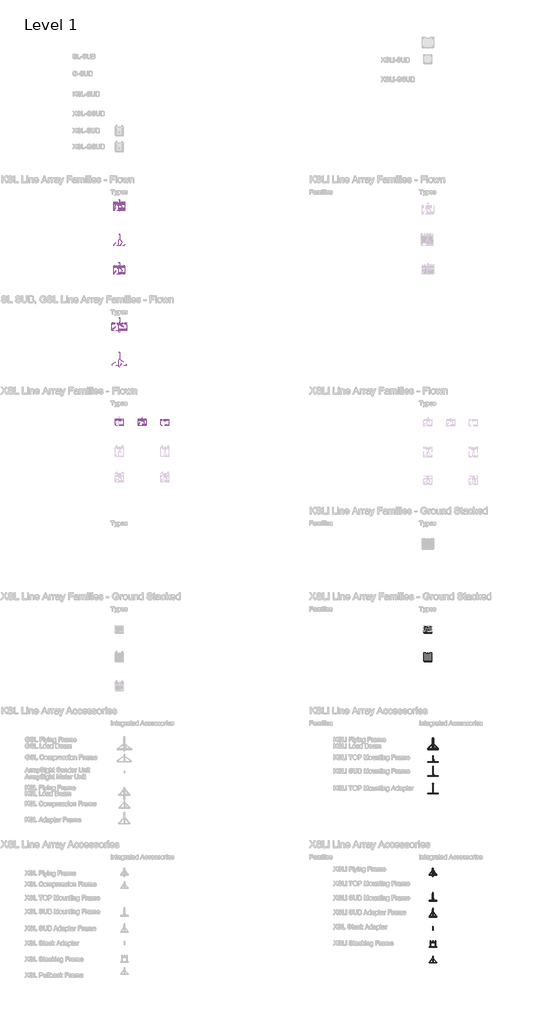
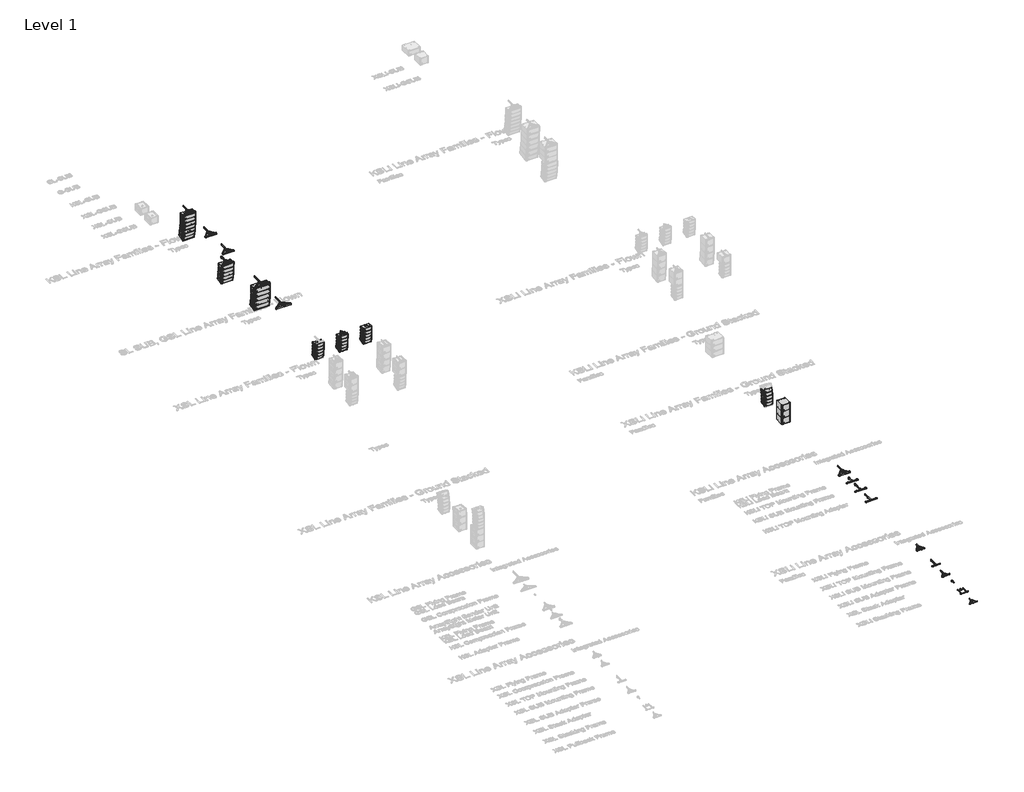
# One storey, part 2 of 52: 75 proxies.
"""IFC4 building model written with IfcOpenShell, lengths in millimetres."""

from ifc_helpers import new_model, si_unit, origin, place, context, project, spatial, transform, mapped, element, save
from components import xsl_adapter_frame_a1c6265e, xsl_adapter_frame_4c239690, communication_devices_4245e99e, communication_devices_117acdfe, communication_devices_14464fff, xsl_stacking_frame_c5b48331, xsl_stacking_frame_b9873154, communication_devices_f9809a49, communication_devices_4d89ff1e, communication_devices_4e83a63b, xsl_sub_mounting_frame_72f05cd3, communication_devices_f2b9ca2b, xsl_compression_frame_79202efc, communication_devices_fb2c1ed3, communication_devices_670856ec, ksl_load_beam_aa081bf2, communication_devices_52280cd8, communication_devices_b4faaad9, communication_devices_27bca6b1, communication_devices_4359931a, ksl_adapter_frame_febc720b, gsl_compression_frame_d4c21625, gsl_load_beam_2b40e9ae, gsl12_12c20019, gsl12_814769ea, gsl12_07355197, ksl_compression_frame_dbb09a64, ksl12_ca8f280e, ksl12_920ca955, ksl12_949d1a2c, xsl_load_beam_a079c9b4, xsl_stack_adapter_3c41b4e6, xsl12_895e49e3, xsl12_576bfbdb, xsl12_ee73a5ce

model = new_model("IFC4")

# Units and contexts
model_context = context("Model", 3, world=origin())
ifc_project = project(units=[si_unit("LENGTHUNIT", "METRE", prefix="MILLI")], contexts=[model_context])

# Site, building, storey
site = spatial("IfcSite", under=ifc_project)
building = spatial("IfcBuilding", under=site)
storey = spatial("IfcBuildingStorey", under=building, Name="Level 1", Elevation=0.0)

# Proxies
placement = place(None, origin())
xsl_adapter_frame_shape = xsl_adapter_frame_a1c6265e(model_context)
xsl_adapter_frame_2_shape = xsl_adapter_frame_4c239690(model_context)
element("IfcBuildingElementProxy", 1, Name="d&b SL-Series XSLi SUB Adapter Frame : XSLi SUB Adapter Frame", ObjectType="d&b SL-Series XSLi SUB Adapter Frame : XSLi SUB Adapter Frame", at=placement, inside=storey, context=model_context, shape_type="MappedRepresentation", body=[
    mapped(xsl_adapter_frame_shape, transform((16703.6207486, -66372.3737699, 0.0), x_axis=(1.0, 0.0, 0.0), y_axis=(0.0, 1.0, 0.0), z_axis=(0.0, 0.0, 1.0))),
    mapped(xsl_adapter_frame_2_shape, transform((16703.6207486, -66372.3737699, 0.0), x_axis=(1.0, 0.0, 0.0), y_axis=(0.0, 1.0, 0.0), z_axis=(0.0, 0.0, 1.0))),
])
communication_devices_shape = communication_devices_4245e99e(model_context)
communication_devices_2_shape = communication_devices_117acdfe(model_context)
communication_devices_3_shape = communication_devices_14464fff(model_context)
element("IfcBuildingElementProxy", 2, Name="d&b SL-Series XSLi : XSLi8", ObjectType="d&b SL-Series XSLi : XSLi8", at=placement, inside=storey, context=model_context, shape_type="MappedRepresentation", body=[
    mapped(communication_devices_shape, transform((15758.3565696, -41137.0450121, 222.9081075), x_axis=(1.0, 0.0, 0.0), y_axis=(0.0, 0.9961946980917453, 0.08715574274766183), z_axis=(0.0, -0.08715574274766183, 0.9961946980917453))),
    mapped(communication_devices_2_shape, transform((15758.3565696, -41137.0450121, 222.9081075), x_axis=(1.0, 0.0, 0.0), y_axis=(0.0, 0.9961946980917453, 0.08715574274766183), z_axis=(0.0, -0.08715574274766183, 0.9961946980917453))),
    mapped(communication_devices_3_shape, transform((15758.3565696, -41137.0450121, 222.9081075), x_axis=(1.0, 0.0, 0.0), y_axis=(0.0, 0.9961946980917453, 0.08715574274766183), z_axis=(0.0, -0.08715574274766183, 0.9961946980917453))),
])
element("IfcBuildingElementProxy", 3, Name="d&b SL-Series XSLi : XSLi8", ObjectType="d&b SL-Series XSLi : XSLi8", at=placement, inside=storey, context=model_context, shape_type="MappedRepresentation", body=[
    mapped(communication_devices_shape, transform((15758.3565696, -41150.1658055, 477.483629), x_axis=(1.0, 0.0, 0.0), y_axis=(0.0, 1.0, 0.0), z_axis=(0.0, 0.0, 1.0))),
    mapped(communication_devices_2_shape, transform((15758.3565696, -41150.1658055, 477.483629), x_axis=(1.0, 0.0, 0.0), y_axis=(0.0, 1.0, 0.0), z_axis=(0.0, 0.0, 1.0))),
    mapped(communication_devices_3_shape, transform((15758.3565696, -41150.1658055, 477.483629), x_axis=(1.0, 0.0, 0.0), y_axis=(0.0, 1.0, 0.0), z_axis=(0.0, 0.0, 1.0))),
])
element("IfcBuildingElementProxy", 4, Name="d&b SL-Series XSLi : XSLi8", ObjectType="d&b SL-Series XSLi : XSLi8", at=placement, inside=storey, context=model_context, shape_type="MappedRepresentation", body=[
    mapped(communication_devices_shape, transform((15758.3565696, -41141.0489517, 732.2339663), x_axis=(1.0, 0.0, 0.0), y_axis=(0.0, 0.996194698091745, -0.08715574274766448), z_axis=(0.0, 0.08715574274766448, 0.996194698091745))),
    mapped(communication_devices_2_shape, transform((15758.3565696, -41141.0489517, 732.2339663), x_axis=(1.0, 0.0, 0.0), y_axis=(0.0, 0.996194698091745, -0.08715574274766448), z_axis=(0.0, 0.08715574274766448, 0.996194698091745))),
    mapped(communication_devices_3_shape, transform((15758.3565696, -41141.0489517, 732.2339663), x_axis=(1.0, 0.0, 0.0), y_axis=(0.0, 0.996194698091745, -0.08715574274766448), z_axis=(0.0, 0.08715574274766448, 0.996194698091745))),
])
element("IfcBuildingElementProxy", 5, Name="d&b SL-Series XSLi : XSLi8", ObjectType="d&b SL-Series XSLi : XSLi8", at=placement, inside=storey, context=model_context, shape_type="MappedRepresentation", body=[
    mapped(communication_devices_shape, transform((15758.3565696, -41056.5485553, 1234.5172976), x_axis=(1.0, 0.0, 0.0), y_axis=(0.0, 0.9659258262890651, -0.2588190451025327), z_axis=(0.0, 0.2588190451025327, 0.9659258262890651))),
    mapped(communication_devices_2_shape, transform((15758.3565696, -41056.5485553, 1234.5172976), x_axis=(1.0, 0.0, 0.0), y_axis=(0.0, 0.9659258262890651, -0.2588190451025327), z_axis=(0.0, 0.2588190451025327, 0.9659258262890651))),
    mapped(communication_devices_3_shape, transform((15758.3565696, -41056.5485553, 1234.5172976), x_axis=(1.0, 0.0, 0.0), y_axis=(0.0, 0.9659258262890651, -0.2588190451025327), z_axis=(0.0, 0.2588190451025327, 0.9659258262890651))),
])
element("IfcBuildingElementProxy", 6, Name="d&b SL-Series XSLi : XSLi8", ObjectType="d&b SL-Series XSLi : XSLi8", at=placement, inside=storey, context=model_context, shape_type="MappedRepresentation", body=[
    mapped(communication_devices_shape, transform((15758.3565696, -41109.7638354, 985.2203154), x_axis=(1.0, 0.0, 0.0), y_axis=(0.0, 0.9848077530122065, -0.17364817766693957), z_axis=(0.0, 0.17364817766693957, 0.9848077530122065))),
    mapped(communication_devices_2_shape, transform((15758.3565696, -41109.7638354, 985.2203154), x_axis=(1.0, 0.0, 0.0), y_axis=(0.0, 0.9848077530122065, -0.17364817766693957), z_axis=(0.0, 0.17364817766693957, 0.9848077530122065))),
    mapped(communication_devices_3_shape, transform((15758.3565696, -41109.7638354, 985.2203154), x_axis=(1.0, 0.0, 0.0), y_axis=(0.0, 0.9848077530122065, -0.17364817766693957), z_axis=(0.0, 0.17364817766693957, 0.9848077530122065))),
])
xsl_stacking_frame_shape = xsl_stacking_frame_c5b48331(model_context)
xsl_stacking_frame_2_shape = xsl_stacking_frame_b9873154(model_context)
element("IfcBuildingElementProxy", 7, Name="d&b SL-Series XSLi Stacking Frame : XSLi Stacking Frame", ObjectType="d&b SL-Series XSLi Stacking Frame : XSLi Stacking Frame", at=placement, inside=storey, context=model_context, shape_type="MappedRepresentation", body=[
    mapped(xsl_stacking_frame_shape, transform((16703.6207486, -68982.5436027, 0.0), x_axis=(1.0, 0.0, 0.0), y_axis=(0.0, 1.0, 0.0), z_axis=(0.0, 0.0, 1.0))),
    mapped(xsl_stacking_frame_2_shape, transform((16703.6207486, -68982.5436027, 0.0), x_axis=(1.0, 0.0, 0.0), y_axis=(0.0, 1.0, 0.0), z_axis=(0.0, 0.0, 1.0))),
])
communication_devices_4_shape = communication_devices_f9809a49(model_context)
element("IfcBuildingElementProxy", 8, Name="d&b SL-Series XSLi-SUB : XSLi-SUB", ObjectType="d&b SL-Series XSLi-SUB : XSLi-SUB", at=placement, inside=storey, context=model_context, shape_type="MappedRepresentation", body=[
    mapped(communication_devices_4_shape, transform((13758.3565696, -43934.0373035, 0.0), x_axis=(1.0000000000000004, 0.0, 0.0), y_axis=(0.0, 1.0000000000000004, 0.0), z_axis=(0.0, 0.0, 1.0))),
])
element("IfcBuildingElementProxy", 9, Name="d&b SL-Series XSLi-SUB : XSLi-SUB", ObjectType="d&b SL-Series XSLi-SUB : XSLi-SUB", at=placement, inside=storey, context=model_context, shape_type="MappedRepresentation", body=[
    mapped(communication_devices_4_shape, transform((13758.3565696, -43934.0373035, 564.2869837), x_axis=(1.0000000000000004, 0.0, 0.0), y_axis=(0.0, 1.0000000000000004, 0.0), z_axis=(0.0, 0.0, 1.0))),
])
element("IfcBuildingElementProxy", 10, Name="d&b SL-Series XSLi-SUB : XSLi-SUB", ObjectType="d&b SL-Series XSLi-SUB : XSLi-SUB", at=placement, inside=storey, context=model_context, shape_type="MappedRepresentation", body=[
    mapped(communication_devices_4_shape, transform((13758.3565696, -43934.0373035, 1128.5739675), x_axis=(1.0000000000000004, 0.0, 0.0), y_axis=(0.0, 1.0000000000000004, 0.0), z_axis=(0.0, 0.0, 1.0))),
])
communication_devices_5_shape = communication_devices_4d89ff1e(model_context)
element("IfcBuildingElementProxy", 11, Name="d&b SL-Series XSLi Flying Frame : XSLi Flying Frame", ObjectType="d&b SL-Series XSLi Flying Frame : XSLi Flying Frame", at=placement, inside=storey, context=model_context, shape_type="MappedRepresentation", body=[
    mapped(communication_devices_5_shape, transform((16703.6207486, -62666.3154614, 0.0), x_axis=(1.0, 0.0, 0.0), y_axis=(0.0, 1.0, 0.0), z_axis=(0.0, 0.0, 1.0))),
])
communication_devices_6_shape = communication_devices_4e83a63b(model_context)
element("IfcBuildingElementProxy", 12, Name="d&b SL-Series GSL Flying Frame : GSL Flying Frame", ObjectType="d&b SL-Series GSL Flying Frame : GSL Flying Frame", at=placement, inside=storey, context=model_context, shape_type="MappedRepresentation", body=[
    mapped(communication_devices_6_shape, transform((-10741.6434304, -18074.7426738, 4000.0), x_axis=(1.0000000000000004, 0.0, 0.0), y_axis=(0.0, 1.0000000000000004, 0.0), z_axis=(0.0, 0.0, 1.0))),
])
xsl_sub_mounting_frame_shape = xsl_sub_mounting_frame_72f05cd3(model_context)
communication_devices_7_shape = communication_devices_f2b9ca2b(model_context)
element("IfcBuildingElementProxy", 13, Name="d&b SL-Series XSLi SUB Mounting Frame : XSLi SUB Mounting Frame", ObjectType="d&b SL-Series XSLi SUB Mounting Frame : XSLi SUB Mounting Frame", at=placement, inside=storey, context=model_context, shape_type="MappedRepresentation", body=[
    mapped(xsl_sub_mounting_frame_shape, transform((16703.6207486, -64932.3737699, 0.0), x_axis=(1.0, 0.0, 0.0), y_axis=(0.0, 1.0, 0.0), z_axis=(0.0, 0.0, 1.0))),
    mapped(communication_devices_7_shape, transform((16703.6207486, -64932.3737699, 0.0), x_axis=(1.0, 0.0, 0.0), y_axis=(0.0, 1.0, 0.0), z_axis=(0.0, 0.0, 1.0))),
])
xsl_compression_frame_shape = xsl_compression_frame_79202efc(model_context)
element("IfcBuildingElementProxy", 14, Name="d&b SL-Series XSL Pullback Frame : XSL Pullback Frame", ObjectType="d&b SL-Series XSL Pullback Frame : XSL Pullback Frame", at=placement, inside=storey, context=model_context, shape_type="MappedRepresentation", body=[
    mapped(xsl_compression_frame_shape, transform((-8741.6434304, -23258.1779583, 2573.6576179), x_axis=(1.0000000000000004, 0.0, 0.0), y_axis=(0.0, 0.981627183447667, 0.19080899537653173), z_axis=(0.0, -0.19080899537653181, 0.9816271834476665))),
])
element("IfcBuildingElementProxy", 15, Name="d&b SL-Series XSLi Pullback Frame : XSLi Pullback Frame", ObjectType="d&b SL-Series XSLi Pullback Frame : XSLi Pullback Frame", at=placement, inside=storey, context=model_context, shape_type="MappedRepresentation", body=[
    mapped(xsl_compression_frame_shape, transform((16703.6207486, -70382.5436027, 0.0), x_axis=(1.0, 0.0, 0.0), y_axis=(0.0, 1.0, 0.0), z_axis=(0.0, 0.0, 1.0))),
])
element("IfcBuildingElementProxy", 16, Name="d&b SL-Series XSL Flying Frame : XSL Flying Frame", ObjectType="d&b SL-Series XSL Flying Frame : XSL Flying Frame", at=placement, inside=storey, context=model_context, shape_type="MappedRepresentation", body=[
    mapped(communication_devices_5_shape, transform((-8741.6434304, -23330.9856601, 4011.0), x_axis=(1.0000000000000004, 0.0, 0.0), y_axis=(0.0, 1.0000000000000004, 0.0), z_axis=(0.0, 0.0, 1.0))),
])
communication_devices_8_shape = communication_devices_fb2c1ed3(model_context)
element("IfcBuildingElementProxy", 17, Name="d&b SL-Series ArraySight Sender Unit : ArraySight Sender Unit", ObjectType="d&b SL-Series ArraySight Sender Unit : ArraySight Sender Unit", at=placement, inside=storey, context=model_context, shape_type="MappedRepresentation", body=[
    mapped(communication_devices_8_shape, transform((-10591.6434304, -17996.7426738, 4004.0), x_axis=(1.0000000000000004, 0.0, 0.0), y_axis=(0.0, 1.0000000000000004, 0.0), z_axis=(0.0, 0.0, 1.0))),
])
element("IfcBuildingElementProxy", 18, Name="d&b SL-Series ArraySight Sender Unit : ArraySight Sender Unit", ObjectType="d&b SL-Series ArraySight Sender Unit : ArraySight Sender Unit", at=placement, inside=storey, context=model_context, shape_type="MappedRepresentation", body=[
    mapped(communication_devices_8_shape, transform((-10591.6434304, -14966.9856601, 4004.0), x_axis=(1.0000000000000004, 0.0, 0.0), y_axis=(0.0, 1.0000000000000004, 0.0), z_axis=(0.0, 0.0, 1.0))),
])
element("IfcBuildingElementProxy", 19, Name="d&b SL-Series ArraySight Sender Unit : ArraySight Sender Unit", ObjectType="d&b SL-Series ArraySight Sender Unit : ArraySight Sender Unit", at=placement, inside=storey, context=model_context, shape_type="MappedRepresentation", body=[
    mapped(communication_devices_8_shape, transform((-10591.6434304, -4466.9856601, 4004.0), x_axis=(1.0000000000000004, 0.0, 0.0), y_axis=(0.0, 1.0000000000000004, 0.0), z_axis=(0.0, 0.0, 1.0))),
])
element("IfcBuildingElementProxy", 20, Name="d&b SL-Series ArraySight Sender Unit : ArraySight Sender Unit", ObjectType="d&b SL-Series ArraySight Sender Unit : ArraySight Sender Unit", at=placement, inside=storey, context=model_context, shape_type="MappedRepresentation", body=[
    mapped(communication_devices_8_shape, transform((-10591.6434304, -9997.6176738, 3924.0), x_axis=(1.0000000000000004, 0.0, 0.0), y_axis=(0.0, 1.0000000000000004, 0.0), z_axis=(0.0, 0.0, 1.0))),
])
element("IfcBuildingElementProxy", 21, Name="d&b SL-Series ArraySight Sender Unit : ArraySight Sender Unit", ObjectType="d&b SL-Series ArraySight Sender Unit : ArraySight Sender Unit", at=placement, inside=storey, context=model_context, shape_type="MappedRepresentation", body=[
    mapped(communication_devices_8_shape, transform((-10591.6434304, -7497.6176738, 3924.0), x_axis=(1.0000000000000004, 0.0, 0.0), y_axis=(0.0, 1.0000000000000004, 0.0), z_axis=(0.0, 0.0, 1.0))),
])
element("IfcBuildingElementProxy", 22, Name="d&b SL-Series ArraySight Sender Unit : ArraySight Sender Unit", ObjectType="d&b SL-Series ArraySight Sender Unit : ArraySight Sender Unit", at=placement, inside=storey, context=model_context, shape_type="MappedRepresentation", body=[
    mapped(communication_devices_8_shape, transform((-6667.2568891, -23330.9856601, 4004.0), x_axis=(1.0000000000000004, 0.0, 0.0), y_axis=(0.0, 1.0000000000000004, 0.0), z_axis=(0.0, 0.0, 1.0))),
])
element("IfcBuildingElementProxy", 23, Name="d&b SL-Series ArraySight Sender Unit : ArraySight Sender Unit", ObjectType="d&b SL-Series ArraySight Sender Unit : ArraySight Sender Unit", at=placement, inside=storey, context=model_context, shape_type="MappedRepresentation", body=[
    mapped(communication_devices_8_shape, transform((-8667.2568891, -23330.9856601, 4004.0), x_axis=(1.0000000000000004, 0.0, 0.0), y_axis=(0.0, 1.0000000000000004, 0.0), z_axis=(0.0, 0.0, 1.0))),
])
element("IfcBuildingElementProxy", 24, Name="d&b SL-Series GSL Flying Frame : GSL Flying Frame", ObjectType="d&b SL-Series GSL Flying Frame : GSL Flying Frame", at=placement, inside=storey, context=model_context, shape_type="MappedRepresentation", body=[
    mapped(communication_devices_6_shape, transform((-10741.6434304, -15044.9856601, 4000.0), x_axis=(1.0000000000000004, 0.0, 0.0), y_axis=(0.0, 1.0000000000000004, 0.0), z_axis=(0.0, 0.0, 1.0))),
])
communication_devices_9_shape = communication_devices_670856ec(model_context)
element("IfcBuildingElementProxy", 25, Name="d&b SL-Series KSL Flying Frame : KSL Flying Frame", ObjectType="d&b SL-Series KSL Flying Frame : KSL Flying Frame", at=placement, inside=storey, context=model_context, shape_type="MappedRepresentation", body=[
    mapped(communication_devices_9_shape, transform((-10741.6434304, -4544.9856601, 4000.0), x_axis=(1.0000000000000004, 0.0, 0.0), y_axis=(0.0, 1.0000000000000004, 0.0), z_axis=(0.0, 0.0, 1.0))),
])
element("IfcBuildingElementProxy", 26, Name="d&b SL-Series KSL Flying Frame : KSL Flying Frame", ObjectType="d&b SL-Series KSL Flying Frame : KSL Flying Frame", at=placement, inside=storey, context=model_context, shape_type="MappedRepresentation", body=[
    mapped(communication_devices_9_shape, transform((-10741.6434304, -10074.7426738, 3920.0), x_axis=(1.0000000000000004, 0.0, 0.0), y_axis=(0.0, 1.0000000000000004, 0.0), z_axis=(0.0, 0.0, 1.0))),
])
element("IfcBuildingElementProxy", 27, Name="d&b SL-Series KSL Flying Frame : KSL Flying Frame", ObjectType="d&b SL-Series KSL Flying Frame : KSL Flying Frame", at=placement, inside=storey, context=model_context, shape_type="MappedRepresentation", body=[
    mapped(communication_devices_9_shape, transform((-10741.6434304, -7574.7426738, 3920.0), x_axis=(1.0000000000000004, 0.0, 0.0), y_axis=(0.0, 1.0000000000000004, 0.0), z_axis=(0.0, 0.0, 1.0))),
])
ksl_load_beam_shape = ksl_load_beam_aa081bf2(model_context)
element("IfcBuildingElementProxy", 28, Name="d&b SL-Series KSLi Load Beam : KSLi Load Beam", ObjectType="d&b SL-Series KSLi Load Beam : KSLi Load Beam", at=placement, inside=storey, context=model_context, shape_type="MappedRepresentation", body=[
    mapped(ksl_load_beam_shape, transform((16713.6207486, -51683.8173767, 0.0), x_axis=(1.0, 0.0, 0.0), y_axis=(0.0, 1.0, 0.0), z_axis=(0.0, 0.0, 1.0))),
])
communication_devices_10_shape = communication_devices_52280cd8(model_context)
element("IfcBuildingElementProxy", 29, Name="d&b SL-Series KSLi TOP Mounting Frame : KSLi TOP Mounting Frame", ObjectType="d&b SL-Series KSLi TOP Mounting Frame : KSLi TOP Mounting Frame", at=placement, inside=storey, context=model_context, shape_type="MappedRepresentation", body=[
    mapped(communication_devices_10_shape, transform((16713.6207486, -52794.9588715, 0.0), x_axis=(1.0, 0.0, 0.0), y_axis=(0.0, 1.0, 0.0), z_axis=(0.0, 0.0, 1.0))),
])
communication_devices_11_shape = communication_devices_b4faaad9(model_context)
element("IfcBuildingElementProxy", 30, Name="d&b SL-Series KSLi Flying Frame : KSLi Flying Frame", ObjectType="d&b SL-Series KSLi Flying Frame : KSLi Flying Frame", at=placement, inside=storey, context=model_context, shape_type="MappedRepresentation", body=[
    mapped(communication_devices_11_shape, transform((16713.6207486, -51683.8173767, 0.0), x_axis=(1.0, 0.0, 0.0), y_axis=(0.0, 1.0, 0.0), z_axis=(0.0, 0.0, 1.0))),
])
communication_devices_12_shape = communication_devices_27bca6b1(model_context)
element("IfcBuildingElementProxy", 31, Name="d&b SL-Series KSLi SUB Mounting Frame : KSLi SUB Mounting Frame", ObjectType="d&b SL-Series KSLi SUB Mounting Frame : KSLi SUB Mounting Frame", at=placement, inside=storey, context=model_context, shape_type="MappedRepresentation", body=[
    mapped(communication_devices_12_shape, transform((16713.6207486, -54034.9588715, 0.0), x_axis=(1.0, 0.0, 0.0), y_axis=(0.0, 1.0, 0.0), z_axis=(0.0, 0.0, 1.0))),
])
communication_devices_13_shape = communication_devices_4359931a(model_context)
element("IfcBuildingElementProxy", 32, Name="d&b SL-Series KSLi SUB Mounting Adapter : KSLi SUB Mounting Adapter", ObjectType="d&b SL-Series KSLi SUB Mounting Adapter : KSLi SUB Mounting Adapter", at=placement, inside=storey, context=model_context, shape_type="MappedRepresentation", body=[
    mapped(communication_devices_13_shape, transform((16713.6207486, -55534.9588715, 0.0), x_axis=(1.0, 0.0, 0.0), y_axis=(0.0, 1.0, 0.0), z_axis=(0.0, 0.0, 1.0))),
])
ksl_adapter_frame_shape = ksl_adapter_frame_febc720b(model_context)
element("IfcBuildingElementProxy", 33, Name="d&b SL-Series KSL Adapter Frame : d&b SL-Series KSL Adapter Frame", ObjectType="d&b SL-Series KSL Adapter Frame : d&b SL-Series KSL Adapter Frame", at=placement, inside=storey, context=model_context, shape_type="MappedRepresentation", body=[
    mapped(ksl_adapter_frame_shape, transform((-11741.6434304, -10049.2104885, 2863.1273811), x_axis=(1.0000000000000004, 0.0, 0.0), y_axis=(0.0, 0.9993908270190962, 0.03489949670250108), z_axis=(0.0, -0.034899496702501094, 0.9993908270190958))),
])
gsl_compression_frame_shape = gsl_compression_frame_d4c21625(model_context)
element("IfcBuildingElementProxy", 34, Name="d&b SL-Series GSL Compression Frame : GSL Compression Frame", ObjectType="d&b SL-Series GSL Compression Frame : GSL Compression Frame", at=placement, inside=storey, context=model_context, shape_type="MappedRepresentation", body=[
    mapped(gsl_compression_frame_shape, transform((-10741.6434304, -14935.594976, 2028.6857312), x_axis=(1.0000000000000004, 0.0, 0.0), y_axis=(0.0, 0.9902680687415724, 0.13917310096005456), z_axis=(0.0, -0.1391731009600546, 0.9902680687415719))),
])
gsl_load_beam_shape = gsl_load_beam_2b40e9ae(model_context)
element("IfcBuildingElementProxy", 35, Name="d&b SL-Series GSL Load Beam : GSL Load Beam", ObjectType="d&b SL-Series GSL Load Beam : GSL Load Beam", at=placement, inside=storey, context=model_context, shape_type="MappedRepresentation", body=[
    mapped(gsl_load_beam_shape, transform((-10741.6434304, -18074.7426738, 4000.0), x_axis=(1.0000000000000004, 0.0, 0.0), y_axis=(0.0, 1.0000000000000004, 0.0), z_axis=(0.0, 0.0, 1.0))),
])
element("IfcBuildingElementProxy", 36, Name="d&b SL-Series GSL Load Beam : GSL Load Beam", ObjectType="d&b SL-Series GSL Load Beam : GSL Load Beam", at=placement, inside=storey, context=model_context, shape_type="MappedRepresentation", body=[
    mapped(gsl_load_beam_shape, transform((-10741.6434304, -15044.9856601, 4000.0), x_axis=(1.0000000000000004, 0.0, 0.0), y_axis=(0.0, 1.0000000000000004, 0.0), z_axis=(0.0, 0.0, 1.0))),
])
gsl12_shape = gsl12_12c20019(model_context)
gsl12_2_shape = gsl12_814769ea(model_context)
gsl12_3_shape = gsl12_07355197(model_context)
element("IfcBuildingElementProxy", 37, Name="d&b SL-Series GSL : GSL8", ObjectType="d&b SL-Series GSL : GSL8", at=placement, inside=storey, context=model_context, shape_type="MappedRepresentation", body=[
    mapped(gsl12_shape, transform((-11241.6434304, -14686.1112574, 3798.0), x_axis=(1.0000000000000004, 0.0, 0.0), y_axis=(0.0, 1.0000000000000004, 0.0), z_axis=(0.0, 0.0, 1.0))),
    mapped(gsl12_2_shape, transform((-11241.6434304, -14686.1112574, 3798.0), x_axis=(1.0000000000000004, 0.0, 0.0), y_axis=(0.0, 1.0000000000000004, 0.0), z_axis=(0.0, 0.0, 1.0))),
    mapped(gsl12_3_shape, transform((-11241.6434304, -14686.1112574, 3798.0), x_axis=(1.0000000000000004, 0.0, 0.0), y_axis=(0.0, 1.0000000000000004, 0.0), z_axis=(0.0, 0.0, 1.0))),
])
element("IfcBuildingElementProxy", 38, Name="d&b SL-Series GSL : GSL8", ObjectType="d&b SL-Series GSL : GSL8", at=placement, inside=storey, context=model_context, shape_type="MappedRepresentation", body=[
    mapped(gsl12_shape, transform((-11241.6434304, -14678.8877528, 3415.6656969), x_axis=(1.0000000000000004, 0.0, 0.0), y_axis=(0.0, 0.9993908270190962, 0.034899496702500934), z_axis=(0.0, -0.03489949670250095, 0.9993908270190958))),
    mapped(gsl12_2_shape, transform((-11241.6434304, -14678.8877528, 3415.6656969), x_axis=(1.0000000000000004, 0.0, 0.0), y_axis=(0.0, 0.9993908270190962, 0.034899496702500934), z_axis=(0.0, -0.03489949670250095, 0.9993908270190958))),
    mapped(gsl12_3_shape, transform((-11241.6434304, -14678.8877528, 3415.6656969), x_axis=(1.0000000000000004, 0.0, 0.0), y_axis=(0.0, 0.9993908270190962, 0.034899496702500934), z_axis=(0.0, -0.03489949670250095, 0.9993908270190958))),
])
element("IfcBuildingElementProxy", 39, Name="d&b SL-Series GSL : GSL8", ObjectType="d&b SL-Series GSL : GSL8", at=placement, inside=storey, context=model_context, shape_type="MappedRepresentation", body=[
    mapped(gsl12_shape, transform((-11241.6434304, -14658.3253738, 3033.8163983), x_axis=(1.0000000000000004, 0.0, 0.0), y_axis=(0.0, 0.9975640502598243, 0.06975647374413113), z_axis=(0.0, -0.06975647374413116, 0.9975640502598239))),
    mapped(gsl12_2_shape, transform((-11241.6434304, -14658.3253738, 3033.8163983), x_axis=(1.0000000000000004, 0.0, 0.0), y_axis=(0.0, 0.9975640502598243, 0.06975647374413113), z_axis=(0.0, -0.06975647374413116, 0.9975640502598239))),
    mapped(gsl12_3_shape, transform((-11241.6434304, -14658.3253738, 3033.8163983), x_axis=(1.0000000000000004, 0.0, 0.0), y_axis=(0.0, 0.9975640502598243, 0.06975647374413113), z_axis=(0.0, -0.06975647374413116, 0.9975640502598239))),
])
element("IfcBuildingElementProxy", 40, Name="d&b SL-Series GSL : GSL8", ObjectType="d&b SL-Series GSL : GSL8", at=placement, inside=storey, context=model_context, shape_type="MappedRepresentation", body=[
    mapped(gsl12_shape, transform((-11241.6434304, -14624.4491725, 2652.9173285), x_axis=(1.0000000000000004, 0.0, 0.0), y_axis=(0.0, 0.9945218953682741, 0.10452846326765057), z_axis=(0.0, -0.10452846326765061, 0.9945218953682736))),
    mapped(gsl12_2_shape, transform((-11241.6434304, -14624.4491725, 2652.9173285), x_axis=(1.0000000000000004, 0.0, 0.0), y_axis=(0.0, 0.9945218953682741, 0.10452846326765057), z_axis=(0.0, -0.10452846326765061, 0.9945218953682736))),
    mapped(gsl12_3_shape, transform((-11241.6434304, -14624.4491725, 2652.9173285), x_axis=(1.0000000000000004, 0.0, 0.0), y_axis=(0.0, 0.9945218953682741, 0.10452846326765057), z_axis=(0.0, -0.10452846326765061, 0.9945218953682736))),
])
element("IfcBuildingElementProxy", 41, Name="d&b SL-Series GSL : GSL8", ObjectType="d&b SL-Series GSL : GSL8", at=placement, inside=storey, context=model_context, shape_type="MappedRepresentation", body=[
    mapped(gsl12_shape, transform((-11241.6434304, -14577.3004218, 2273.4325546), x_axis=(1.0000000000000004, 0.0, 0.0), y_axis=(0.0, 0.9902680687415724, 0.13917310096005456), z_axis=(0.0, -0.1391731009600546, 0.9902680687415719))),
    mapped(gsl12_2_shape, transform((-11241.6434304, -14577.3004218, 2273.4325546), x_axis=(1.0000000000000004, 0.0, 0.0), y_axis=(0.0, 0.9902680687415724, 0.13917310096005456), z_axis=(0.0, -0.1391731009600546, 0.9902680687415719))),
    mapped(gsl12_3_shape, transform((-11241.6434304, -14577.3004218, 2273.4325546), x_axis=(1.0000000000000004, 0.0, 0.0), y_axis=(0.0, 0.9902680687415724, 0.13917310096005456), z_axis=(0.0, -0.1391731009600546, 0.9902680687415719))),
])
ksl_compression_frame_shape = ksl_compression_frame_dbb09a64(model_context)
element("IfcBuildingElementProxy", 42, Name="d&b SL-Series KSL Compression Frame : KSL Compression Frame", ObjectType="d&b SL-Series KSL Compression Frame : KSL Compression Frame", at=placement, inside=storey, context=model_context, shape_type="MappedRepresentation", body=[
    mapped(ksl_compression_frame_shape, transform((-10741.6434304, -4329.254222, 1684.0712334), x_axis=(1.0000000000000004, 0.0, 0.0), y_axis=(0.0, 0.9781476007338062, 0.20791169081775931), z_axis=(0.0, -0.2079116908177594, 0.9781476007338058))),
])
element("IfcBuildingElementProxy", 43, Name="d&b SL-Series KSL Load Beam : KSL Load Beam", ObjectType="d&b SL-Series KSL Load Beam : KSL Load Beam", at=placement, inside=storey, context=model_context, shape_type="MappedRepresentation", body=[
    mapped(ksl_load_beam_shape, transform((-10741.6434304, -4544.9856601, 4000.0), x_axis=(1.0000000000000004, 0.0, 0.0), y_axis=(0.0, 1.0000000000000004, 0.0), z_axis=(0.0, 0.0, 1.0))),
])
element("IfcBuildingElementProxy", 44, Name="d&b SL-Series KSL Load Beam : KSL Load Beam", ObjectType="d&b SL-Series KSL Load Beam : KSL Load Beam", at=placement, inside=storey, context=model_context, shape_type="MappedRepresentation", body=[
    mapped(ksl_load_beam_shape, transform((-10741.6434304, -10074.7426738, 3920.0), x_axis=(1.0000000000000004, 0.0, 0.0), y_axis=(0.0, 1.0000000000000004, 0.0), z_axis=(0.0, 0.0, 1.0))),
])
element("IfcBuildingElementProxy", 45, Name="d&b SL-Series KSL Load Beam : KSL Load Beam", ObjectType="d&b SL-Series KSL Load Beam : KSL Load Beam", at=placement, inside=storey, context=model_context, shape_type="MappedRepresentation", body=[
    mapped(ksl_load_beam_shape, transform((-10741.6434304, -7574.7426738, 3920.0), x_axis=(1.0000000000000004, 0.0, 0.0), y_axis=(0.0, 1.0000000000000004, 0.0), z_axis=(0.0, 0.0, 1.0))),
])
ksl12_shape = ksl12_ca8f280e(model_context)
ksl12_2_shape = ksl12_920ca955(model_context)
ksl12_3_shape = ksl12_949d1a2c(model_context)
element("IfcBuildingElementProxy", 46, Name="d&b SL-Series KSL : KSL8", ObjectType="d&b SL-Series KSL : KSL8", at=placement, inside=storey, context=model_context, shape_type="MappedRepresentation", body=[
    mapped(ksl12_shape, transform((-11241.6434304, -9692.747136, 2734.2304661), x_axis=(1.0000000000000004, 0.0, 0.0), y_axis=(0.0, 0.9993908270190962, 0.03489949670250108), z_axis=(0.0, -0.034899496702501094, 0.9993908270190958))),
    mapped(ksl12_2_shape, transform((-11241.6434304, -9692.747136, 2734.2304661), x_axis=(1.0000000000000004, 0.0, 0.0), y_axis=(0.0, 0.9993908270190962, 0.03489949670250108), z_axis=(0.0, -0.034899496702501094, 0.9993908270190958))),
    mapped(ksl12_3_shape, transform((-11241.6434304, -9692.747136, 2734.2304661), x_axis=(1.0000000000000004, 0.0, 0.0), y_axis=(0.0, 0.9993908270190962, 0.03489949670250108), z_axis=(0.0, -0.034899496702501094, 0.9993908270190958))),
])
element("IfcBuildingElementProxy", 47, Name="d&b SL-Series KSL : KSL8", ObjectType="d&b SL-Series KSL : KSL8", at=placement, inside=storey, context=model_context, shape_type="MappedRepresentation", body=[
    mapped(ksl12_shape, transform((-11241.6434304, -9675.3979926, 2414.5924829), x_axis=(1.0000000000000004, 0.0, 0.0), y_axis=(0.0, 0.9975640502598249, 0.06975647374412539), z_axis=(0.0, -0.06975647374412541, 0.9975640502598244))),
    mapped(ksl12_2_shape, transform((-11241.6434304, -9675.3979926, 2414.5924829), x_axis=(1.0000000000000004, 0.0, 0.0), y_axis=(0.0, 0.9975640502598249, 0.06975647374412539), z_axis=(0.0, -0.06975647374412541, 0.9975640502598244))),
    mapped(ksl12_3_shape, transform((-11241.6434304, -9675.3979926, 2414.5924829), x_axis=(1.0000000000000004, 0.0, 0.0), y_axis=(0.0, 0.9975640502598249, 0.06975647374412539), z_axis=(0.0, -0.06975647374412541, 0.9975640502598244))),
])
element("IfcBuildingElementProxy", 48, Name="d&b SL-Series KSL : KSL8", ObjectType="d&b SL-Series KSL : KSL8", at=placement, inside=storey, context=model_context, shape_type="MappedRepresentation", body=[
    mapped(ksl12_shape, transform((-11241.6434304, -9646.9039541, 2095.750986), x_axis=(1.0000000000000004, 0.0, 0.0), y_axis=(0.0, 0.9945218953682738, 0.10452846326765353), z_axis=(0.0, -0.10452846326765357, 0.9945218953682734))),
    mapped(ksl12_2_shape, transform((-11241.6434304, -9646.9039541, 2095.750986), x_axis=(1.0000000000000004, 0.0, 0.0), y_axis=(0.0, 0.9945218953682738, 0.10452846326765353), z_axis=(0.0, -0.10452846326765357, 0.9945218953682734))),
    mapped(ksl12_3_shape, transform((-11241.6434304, -9646.9039541, 2095.750986), x_axis=(1.0000000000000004, 0.0, 0.0), y_axis=(0.0, 0.9945218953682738, 0.10452846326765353), z_axis=(0.0, -0.10452846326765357, 0.9945218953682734))),
])
element("IfcBuildingElementProxy", 49, Name="d&b SL-Series KSL : KSL8", ObjectType="d&b SL-Series KSL : KSL8", at=placement, inside=storey, context=model_context, shape_type="MappedRepresentation", body=[
    mapped(ksl12_shape, transform((-11241.6434304, -9556.6339785, 1462.020975), x_axis=(1.0000000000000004, 0.0, 0.0), y_axis=(0.0, 0.9848077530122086, 0.17364817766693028), z_axis=(0.0, -0.17364817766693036, 0.9848077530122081))),
    mapped(ksl12_2_shape, transform((-11241.6434304, -9556.6339785, 1462.020975), x_axis=(1.0000000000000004, 0.0, 0.0), y_axis=(0.0, 0.9848077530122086, 0.17364817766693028), z_axis=(0.0, -0.17364817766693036, 0.9848077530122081))),
    mapped(ksl12_3_shape, transform((-11241.6434304, -9556.6339785, 1462.020975), x_axis=(1.0000000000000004, 0.0, 0.0), y_axis=(0.0, 0.9848077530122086, 0.17364817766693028), z_axis=(0.0, -0.17364817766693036, 0.9848077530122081))),
])
element("IfcBuildingElementProxy", 50, Name="d&b SL-Series KSL : KSL8", ObjectType="d&b SL-Series KSL : KSL8", at=placement, inside=storey, context=model_context, shape_type="MappedRepresentation", body=[
    mapped(ksl12_shape, transform((-11241.6434304, -9607.2998655, 1778.0981464), x_axis=(1.0000000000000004, 0.0, 0.0), y_axis=(0.0, 0.9902680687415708, 0.13917310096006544), z_axis=(0.0, -0.1391731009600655, 0.9902680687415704))),
    mapped(ksl12_2_shape, transform((-11241.6434304, -9607.2998655, 1778.0981464), x_axis=(1.0000000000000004, 0.0, 0.0), y_axis=(0.0, 0.9902680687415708, 0.13917310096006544), z_axis=(0.0, -0.1391731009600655, 0.9902680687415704))),
    mapped(ksl12_3_shape, transform((-11241.6434304, -9607.2998655, 1778.0981464), x_axis=(1.0000000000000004, 0.0, 0.0), y_axis=(0.0, 0.9902680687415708, 0.13917310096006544), z_axis=(0.0, -0.1391731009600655, 0.9902680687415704))),
])
element("IfcBuildingElementProxy", 51, Name="d&b SL-Series KSL : KSL8", ObjectType="d&b SL-Series KSL : KSL8", at=placement, inside=storey, context=model_context, shape_type="MappedRepresentation", body=[
    mapped(ksl12_shape, transform((-11241.6434304, -4186.1112574, 3827.8037139), x_axis=(1.0000000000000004, 0.0, 0.0), y_axis=(0.0, 1.0000000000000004, 0.0), z_axis=(0.0, 0.0, 1.0))),
    mapped(ksl12_2_shape, transform((-11241.6434304, -4186.1112574, 3827.8037139), x_axis=(1.0000000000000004, 0.0, 0.0), y_axis=(0.0, 1.0000000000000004, 0.0), z_axis=(0.0, 0.0, 1.0))),
    mapped(ksl12_3_shape, transform((-11241.6434304, -4186.1112574, 3827.8037139), x_axis=(1.0000000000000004, 0.0, 0.0), y_axis=(0.0, 1.0000000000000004, 0.0), z_axis=(0.0, 0.0, 1.0))),
])
element("IfcBuildingElementProxy", 52, Name="d&b SL-Series KSL : KSL8", ObjectType="d&b SL-Series KSL : KSL8", at=placement, inside=storey, context=model_context, shape_type="MappedRepresentation", body=[
    mapped(ksl12_shape, transform((-11241.6434304, -4179.9278874, 3507.7549692), x_axis=(1.0000000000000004, 0.0, 0.0), y_axis=(0.0, 0.9993908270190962, 0.03489949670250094), z_axis=(0.0, -0.034899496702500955, 0.9993908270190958))),
    mapped(ksl12_2_shape, transform((-11241.6434304, -4179.9278874, 3507.7549692), x_axis=(1.0000000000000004, 0.0, 0.0), y_axis=(0.0, 0.9993908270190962, 0.03489949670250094), z_axis=(0.0, -0.034899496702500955, 0.9993908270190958))),
    mapped(ksl12_3_shape, transform((-11241.6434304, -4179.9278874, 3507.7549692), x_axis=(1.0000000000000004, 0.0, 0.0), y_axis=(0.0, 0.9993908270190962, 0.03489949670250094), z_axis=(0.0, -0.034899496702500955, 0.9993908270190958))),
])
element("IfcBuildingElementProxy", 53, Name="d&b SL-Series KSL : KSL8", ObjectType="d&b SL-Series KSL : KSL8", at=placement, inside=storey, context=model_context, shape_type="MappedRepresentation", body=[
    mapped(ksl12_shape, transform((-11241.6434304, -4162.578744, 3188.1169859), x_axis=(1.0000000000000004, 0.0, 0.0), y_axis=(0.0, 0.9975640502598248, 0.06975647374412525), z_axis=(0.0, -0.06975647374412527, 0.9975640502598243))),
    mapped(ksl12_2_shape, transform((-11241.6434304, -4162.578744, 3188.1169859), x_axis=(1.0000000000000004, 0.0, 0.0), y_axis=(0.0, 0.9975640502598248, 0.06975647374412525), z_axis=(0.0, -0.06975647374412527, 0.9975640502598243))),
    mapped(ksl12_3_shape, transform((-11241.6434304, -4162.578744, 3188.1169859), x_axis=(1.0000000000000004, 0.0, 0.0), y_axis=(0.0, 0.9975640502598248, 0.06975647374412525), z_axis=(0.0, -0.06975647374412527, 0.9975640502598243))),
])
element("IfcBuildingElementProxy", 54, Name="d&b SL-Series KSL : KSL8", ObjectType="d&b SL-Series KSL : KSL8", at=placement, inside=storey, context=model_context, shape_type="MappedRepresentation", body=[
    mapped(ksl12_shape, transform((-11241.6434304, -4134.0847055, 2869.275489), x_axis=(1.0000000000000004, 0.0, 0.0), y_axis=(0.0, 0.9945218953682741, 0.10452846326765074), z_axis=(0.0, -0.10452846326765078, 0.9945218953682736))),
    mapped(ksl12_2_shape, transform((-11241.6434304, -4134.0847055, 2869.275489), x_axis=(1.0000000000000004, 0.0, 0.0), y_axis=(0.0, 0.9945218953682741, 0.10452846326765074), z_axis=(0.0, -0.10452846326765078, 0.9945218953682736))),
    mapped(ksl12_3_shape, transform((-11241.6434304, -4134.0847055, 2869.275489), x_axis=(1.0000000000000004, 0.0, 0.0), y_axis=(0.0, 0.9945218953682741, 0.10452846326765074), z_axis=(0.0, -0.10452846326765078, 0.9945218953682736))),
])
element("IfcBuildingElementProxy", 55, Name="d&b SL-Series KSL : KSL8", ObjectType="d&b SL-Series KSL : KSL8", at=placement, inside=storey, context=model_context, shape_type="MappedRepresentation", body=[
    mapped(ksl12_shape, transform((-11241.6434304, -4094.4806169, 2551.6226494), x_axis=(1.0000000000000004, 0.0, 0.0), y_axis=(0.0, 0.9902680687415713, 0.1391731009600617), z_axis=(0.0, -0.13917310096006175, 0.9902680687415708))),
    mapped(ksl12_2_shape, transform((-11241.6434304, -4094.4806169, 2551.6226494), x_axis=(1.0000000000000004, 0.0, 0.0), y_axis=(0.0, 0.9902680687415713, 0.1391731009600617), z_axis=(0.0, -0.13917310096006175, 0.9902680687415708))),
    mapped(ksl12_3_shape, transform((-11241.6434304, -4094.4806169, 2551.6226494), x_axis=(1.0000000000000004, 0.0, 0.0), y_axis=(0.0, 0.9902680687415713, 0.1391731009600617), z_axis=(0.0, -0.13917310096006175, 0.9902680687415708))),
])
element("IfcBuildingElementProxy", 56, Name="d&b SL-Series KSL : KSL8", ObjectType="d&b SL-Series KSL : KSL8", at=placement, inside=storey, context=model_context, shape_type="MappedRepresentation", body=[
    mapped(ksl12_shape, transform((-11241.6434304, -4043.8147299, 2235.545478), x_axis=(1.0000000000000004, 0.0, 0.0), y_axis=(0.0, 0.9848077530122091, 0.1736481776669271), z_axis=(0.0, -0.1736481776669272, 0.9848077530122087))),
    mapped(ksl12_2_shape, transform((-11241.6434304, -4043.8147299, 2235.545478), x_axis=(1.0000000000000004, 0.0, 0.0), y_axis=(0.0, 0.9848077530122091, 0.1736481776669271), z_axis=(0.0, -0.1736481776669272, 0.9848077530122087))),
    mapped(ksl12_3_shape, transform((-11241.6434304, -4043.8147299, 2235.545478), x_axis=(1.0000000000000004, 0.0, 0.0), y_axis=(0.0, 0.9848077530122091, 0.1736481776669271), z_axis=(0.0, -0.1736481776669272, 0.9848077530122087))),
])
element("IfcBuildingElementProxy", 57, Name="d&b SL-Series KSL : KSL8", ObjectType="d&b SL-Series KSL : KSL8", at=placement, inside=storey, context=model_context, shape_type="MappedRepresentation", body=[
    mapped(ksl12_shape, transform((-11241.6434304, -3982.148773, 1921.4290662), x_axis=(1.0000000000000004, 0.0, 0.0), y_axis=(0.0, 0.9781476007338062, 0.20791169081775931), z_axis=(0.0, -0.2079116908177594, 0.9781476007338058))),
    mapped(ksl12_2_shape, transform((-11241.6434304, -3982.148773, 1921.4290662), x_axis=(1.0000000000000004, 0.0, 0.0), y_axis=(0.0, 0.9781476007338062, 0.20791169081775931), z_axis=(0.0, -0.2079116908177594, 0.9781476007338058))),
    mapped(ksl12_3_shape, transform((-11241.6434304, -3982.148773, 1921.4290662), x_axis=(1.0000000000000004, 0.0, 0.0), y_axis=(0.0, 0.9781476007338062, 0.20791169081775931), z_axis=(0.0, -0.2079116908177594, 0.9781476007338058))),
])
element("IfcBuildingElementProxy", 58, Name="d&b SL-Series XSL Compression Frame : XSL Compression Frame", ObjectType="d&b SL-Series XSL Compression Frame : XSL Compression Frame", at=placement, inside=storey, context=model_context, shape_type="MappedRepresentation", body=[
    mapped(xsl_compression_frame_shape, transform((-8741.6434304, -23258.1779583, 2573.6576179), x_axis=(1.0000000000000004, 0.0, 0.0), y_axis=(0.0, 0.981627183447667, 0.19080899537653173), z_axis=(0.0, -0.19080899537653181, 0.9816271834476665))),
])
xsl_load_beam_shape = xsl_load_beam_a079c9b4(model_context)
element("IfcBuildingElementProxy", 59, Name="d&b SL-Series XSL Load Beam : XSL Load Beam", ObjectType="d&b SL-Series XSL Load Beam : XSL Load Beam", at=placement, inside=storey, context=model_context, shape_type="MappedRepresentation", body=[
    mapped(xsl_load_beam_shape, transform((16703.6207486, -62622.8108893, -10.9199532), x_axis=(1.0, 0.0, 0.0), y_axis=(0.0, 1.0, 0.0), z_axis=(0.0, 0.0, 1.0))),
])
xsl_stack_adapter_shape = xsl_stack_adapter_3c41b4e6(model_context)
element("IfcBuildingElementProxy", 60, Name="d&b SL-Series XSL Stack Adapter : XSL Stack Adapter", ObjectType="d&b SL-Series XSL Stack Adapter : XSL Stack Adapter", at=placement, inside=storey, context=model_context, shape_type="MappedRepresentation", body=[
    mapped(xsl_stack_adapter_shape, transform((16703.6207486, -67181.4742773, 0.0), x_axis=(1.0, 0.0, 0.0), y_axis=(0.0, 1.0, 0.0), z_axis=(0.0, 0.0, 1.0))),
])
xsl12_shape = xsl12_895e49e3(model_context)
xsl12_2_shape = xsl12_576bfbdb(model_context)
xsl12_3_shape = xsl12_ee73a5ce(model_context)
element("IfcBuildingElementProxy", 61, Name="d&b SL-Series XSL : XSL8", ObjectType="d&b SL-Series XSL : XSL8", at=placement, inside=storey, context=model_context, shape_type="MappedRepresentation", body=[
    mapped(xsl12_shape, transform((-11241.6434304, -22983.8612574, 3845.3), x_axis=(1.0000000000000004, 0.0, 0.0), y_axis=(0.0, 1.0000000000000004, 0.0), z_axis=(0.0, 0.0, 1.0))),
    mapped(xsl12_2_shape, transform((-11241.6434304, -22983.8612574, 3845.3), x_axis=(1.0000000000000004, 0.0, 0.0), y_axis=(0.0, 1.0000000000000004, 0.0), z_axis=(0.0, 0.0, 1.0))),
    mapped(xsl12_3_shape, transform((-11241.6434304, -22983.8612574, 3845.3), x_axis=(1.0000000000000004, 0.0, 0.0), y_axis=(0.0, 1.0000000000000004, 0.0), z_axis=(0.0, 0.0, 1.0))),
])
element("IfcBuildingElementProxy", 62, Name="d&b SL-Series XSL : XSL8", ObjectType="d&b SL-Series XSL : XSL8", at=placement, inside=storey, context=model_context, shape_type="MappedRepresentation", body=[
    mapped(xsl12_shape, transform((-11241.6434304, -22978.2898696, 3572.0554618), x_axis=(1.0000000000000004, 0.0, 0.0), y_axis=(0.0, 0.9993908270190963, 0.034899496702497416), z_axis=(0.0, -0.03489949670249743, 0.9993908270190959))),
    mapped(xsl12_2_shape, transform((-11241.6434304, -22978.2898696, 3572.0554618), x_axis=(1.0000000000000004, 0.0, 0.0), y_axis=(0.0, 0.9993908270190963, 0.034899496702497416), z_axis=(0.0, -0.03489949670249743, 0.9993908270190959))),
    mapped(xsl12_3_shape, transform((-11241.6434304, -22978.2898696, 3572.0554618), x_axis=(1.0000000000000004, 0.0, 0.0), y_axis=(0.0, 0.9993908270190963, 0.034899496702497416), z_axis=(0.0, -0.03489949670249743, 0.9993908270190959))),
])
element("IfcBuildingElementProxy", 63, Name="d&b SL-Series XSL : XSL8", ObjectType="d&b SL-Series XSL : XSL8", at=placement, inside=storey, context=model_context, shape_type="MappedRepresentation", body=[
    mapped(xsl12_shape, transform((-11241.6434304, -22963.185777, 3299.1717605), x_axis=(1.0000000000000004, 0.0, 0.0), y_axis=(0.0, 0.997564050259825, 0.06975647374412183), z_axis=(0.0, -0.06975647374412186, 0.9975640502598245))),
    mapped(xsl12_2_shape, transform((-11241.6434304, -22963.185777, 3299.1717605), x_axis=(1.0000000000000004, 0.0, 0.0), y_axis=(0.0, 0.997564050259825, 0.06975647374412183), z_axis=(0.0, -0.06975647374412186, 0.9975640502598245))),
    mapped(xsl12_3_shape, transform((-11241.6434304, -22963.185777, 3299.1717605), x_axis=(1.0000000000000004, 0.0, 0.0), y_axis=(0.0, 0.997564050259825, 0.06975647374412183), z_axis=(0.0, -0.06975647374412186, 0.9975640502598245))),
])
element("IfcBuildingElementProxy", 64, Name="d&b SL-Series XSL : XSL8", ObjectType="d&b SL-Series XSL : XSL8", at=placement, inside=storey, context=model_context, shape_type="MappedRepresentation", body=[
    mapped(xsl12_shape, transform((-11241.6434304, -22938.5673815, 3026.9814179), x_axis=(1.0000000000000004, 0.0, 0.0), y_axis=(0.0, 0.9945218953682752, 0.10452846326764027), z_axis=(0.0, -0.10452846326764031, 0.9945218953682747))),
    mapped(xsl12_2_shape, transform((-11241.6434304, -22938.5673815, 3026.9814179), x_axis=(1.0000000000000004, 0.0, 0.0), y_axis=(0.0, 0.9945218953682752, 0.10452846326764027), z_axis=(0.0, -0.10452846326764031, 0.9945218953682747))),
    mapped(xsl12_3_shape, transform((-11241.6434304, -22938.5673815, 3026.9814179), x_axis=(1.0000000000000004, 0.0, 0.0), y_axis=(0.0, 0.9945218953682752, 0.10452846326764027), z_axis=(0.0, -0.10452846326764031, 0.9945218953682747))),
])
element("IfcBuildingElementProxy", 65, Name="d&b SL-Series XSL : XSL8", ObjectType="d&b SL-Series XSL : XSL8", at=placement, inside=storey, context=model_context, shape_type="MappedRepresentation", body=[
    mapped(xsl12_shape, transform((-11241.6434304, -22898.9080714, 2775.1719296), x_axis=(1.0000000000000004, 0.0, 0.0), y_axis=(0.0, 0.981627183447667, 0.19080899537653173), z_axis=(0.0, -0.19080899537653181, 0.9816271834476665))),
    mapped(xsl12_2_shape, transform((-11241.6434304, -22898.9080714, 2775.1719296), x_axis=(1.0000000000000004, 0.0, 0.0), y_axis=(0.0, 0.981627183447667, 0.19080899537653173), z_axis=(0.0, -0.19080899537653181, 0.9816271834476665))),
    mapped(xsl12_3_shape, transform((-11241.6434304, -22898.9080714, 2775.1719296), x_axis=(1.0000000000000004, 0.0, 0.0), y_axis=(0.0, 0.981627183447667, 0.19080899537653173), z_axis=(0.0, -0.19080899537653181, 0.9816271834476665))),
])
element("IfcBuildingElementProxy", 66, Name="d&b SL-Series XSL : XSL8", ObjectType="d&b SL-Series XSL : XSL8", at=placement, inside=storey, context=model_context, shape_type="MappedRepresentation", body=[
    mapped(xsl12_shape, transform((-7241.6434304, -22983.8612574, 3845.3), x_axis=(1.0000000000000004, 0.0, 0.0), y_axis=(0.0, 1.0000000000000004, 0.0), z_axis=(0.0, 0.0, 1.0))),
    mapped(xsl12_2_shape, transform((-7241.6434304, -22983.8612574, 3845.3), x_axis=(1.0000000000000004, 0.0, 0.0), y_axis=(0.0, 1.0000000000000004, 0.0), z_axis=(0.0, 0.0, 1.0))),
    mapped(xsl12_3_shape, transform((-7241.6434304, -22983.8612574, 3845.3), x_axis=(1.0000000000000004, 0.0, 0.0), y_axis=(0.0, 1.0000000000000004, 0.0), z_axis=(0.0, 0.0, 1.0))),
])
element("IfcBuildingElementProxy", 67, Name="d&b SL-Series XSL : XSL8", ObjectType="d&b SL-Series XSL : XSL8", at=placement, inside=storey, context=model_context, shape_type="MappedRepresentation", body=[
    mapped(xsl12_shape, transform((-7241.6434304, -22978.2898696, 3572.0554618), x_axis=(1.0000000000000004, 0.0, 0.0), y_axis=(0.0, 0.9993908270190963, 0.034899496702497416), z_axis=(0.0, -0.03489949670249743, 0.9993908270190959))),
    mapped(xsl12_2_shape, transform((-7241.6434304, -22978.2898696, 3572.0554618), x_axis=(1.0000000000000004, 0.0, 0.0), y_axis=(0.0, 0.9993908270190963, 0.034899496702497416), z_axis=(0.0, -0.03489949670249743, 0.9993908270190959))),
    mapped(xsl12_3_shape, transform((-7241.6434304, -22978.2898696, 3572.0554618), x_axis=(1.0000000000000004, 0.0, 0.0), y_axis=(0.0, 0.9993908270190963, 0.034899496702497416), z_axis=(0.0, -0.03489949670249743, 0.9993908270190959))),
])
element("IfcBuildingElementProxy", 68, Name="d&b SL-Series XSL : XSL8", ObjectType="d&b SL-Series XSL : XSL8", at=placement, inside=storey, context=model_context, shape_type="MappedRepresentation", body=[
    mapped(xsl12_shape, transform((-7241.6434304, -22963.185777, 3299.1717605), x_axis=(1.0000000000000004, 0.0, 0.0), y_axis=(0.0, 0.997564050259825, 0.06975647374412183), z_axis=(0.0, -0.06975647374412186, 0.9975640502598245))),
    mapped(xsl12_2_shape, transform((-7241.6434304, -22963.185777, 3299.1717605), x_axis=(1.0000000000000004, 0.0, 0.0), y_axis=(0.0, 0.997564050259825, 0.06975647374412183), z_axis=(0.0, -0.06975647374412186, 0.9975640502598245))),
    mapped(xsl12_3_shape, transform((-7241.6434304, -22963.185777, 3299.1717605), x_axis=(1.0000000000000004, 0.0, 0.0), y_axis=(0.0, 0.997564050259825, 0.06975647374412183), z_axis=(0.0, -0.06975647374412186, 0.9975640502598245))),
])
element("IfcBuildingElementProxy", 69, Name="d&b SL-Series XSL : XSL8", ObjectType="d&b SL-Series XSL : XSL8", at=placement, inside=storey, context=model_context, shape_type="MappedRepresentation", body=[
    mapped(xsl12_shape, transform((-7241.6434304, -22938.5673815, 3026.9814179), x_axis=(1.0000000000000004, 0.0, 0.0), y_axis=(0.0, 0.9945218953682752, 0.10452846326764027), z_axis=(0.0, -0.10452846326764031, 0.9945218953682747))),
    mapped(xsl12_2_shape, transform((-7241.6434304, -22938.5673815, 3026.9814179), x_axis=(1.0000000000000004, 0.0, 0.0), y_axis=(0.0, 0.9945218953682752, 0.10452846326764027), z_axis=(0.0, -0.10452846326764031, 0.9945218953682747))),
    mapped(xsl12_3_shape, transform((-7241.6434304, -22938.5673815, 3026.9814179), x_axis=(1.0000000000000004, 0.0, 0.0), y_axis=(0.0, 0.9945218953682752, 0.10452846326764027), z_axis=(0.0, -0.10452846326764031, 0.9945218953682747))),
])
element("IfcBuildingElementProxy", 70, Name="d&b SL-Series XSL : XSL8", ObjectType="d&b SL-Series XSL : XSL8", at=placement, inside=storey, context=model_context, shape_type="MappedRepresentation", body=[
    mapped(xsl12_shape, transform((-7241.6434304, -22904.464677, 2755.8160559), x_axis=(1.0000000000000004, 0.0, 0.0), y_axis=(0.0, 0.9902680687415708, 0.13917310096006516), z_axis=(0.0, -0.13917310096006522, 0.9902680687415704))),
    mapped(xsl12_2_shape, transform((-7241.6434304, -22904.464677, 2755.8160559), x_axis=(1.0000000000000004, 0.0, 0.0), y_axis=(0.0, 0.9902680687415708, 0.13917310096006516), z_axis=(0.0, -0.13917310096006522, 0.9902680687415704))),
    mapped(xsl12_3_shape, transform((-7241.6434304, -22904.464677, 2755.8160559), x_axis=(1.0000000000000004, 0.0, 0.0), y_axis=(0.0, 0.9902680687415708, 0.13917310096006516), z_axis=(0.0, -0.13917310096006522, 0.9902680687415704))),
])
element("IfcBuildingElementProxy", 71, Name="d&b SL-Series XSL : XSL8", ObjectType="d&b SL-Series XSL : XSL8", at=placement, inside=storey, context=model_context, shape_type="MappedRepresentation", body=[
    mapped(xsl12_shape, transform((-9241.6434304, -22983.8612574, 3845.3), x_axis=(1.0000000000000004, 0.0, 0.0), y_axis=(0.0, 1.0000000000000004, 0.0), z_axis=(0.0, 0.0, 1.0))),
    mapped(xsl12_2_shape, transform((-9241.6434304, -22983.8612574, 3845.3), x_axis=(1.0000000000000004, 0.0, 0.0), y_axis=(0.0, 1.0000000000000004, 0.0), z_axis=(0.0, 0.0, 1.0))),
    mapped(xsl12_3_shape, transform((-9241.6434304, -22983.8612574, 3845.3), x_axis=(1.0000000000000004, 0.0, 0.0), y_axis=(0.0, 1.0000000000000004, 0.0), z_axis=(0.0, 0.0, 1.0))),
])
element("IfcBuildingElementProxy", 72, Name="d&b SL-Series XSL : XSL8", ObjectType="d&b SL-Series XSL : XSL8", at=placement, inside=storey, context=model_context, shape_type="MappedRepresentation", body=[
    mapped(xsl12_shape, transform((-9241.6434304, -22978.2898696, 3572.0554618), x_axis=(1.0000000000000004, 0.0, 0.0), y_axis=(0.0, 0.9993908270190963, 0.034899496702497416), z_axis=(0.0, -0.03489949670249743, 0.9993908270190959))),
    mapped(xsl12_2_shape, transform((-9241.6434304, -22978.2898696, 3572.0554618), x_axis=(1.0000000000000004, 0.0, 0.0), y_axis=(0.0, 0.9993908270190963, 0.034899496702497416), z_axis=(0.0, -0.03489949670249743, 0.9993908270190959))),
    mapped(xsl12_3_shape, transform((-9241.6434304, -22978.2898696, 3572.0554618), x_axis=(1.0000000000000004, 0.0, 0.0), y_axis=(0.0, 0.9993908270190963, 0.034899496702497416), z_axis=(0.0, -0.03489949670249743, 0.9993908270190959))),
])
element("IfcBuildingElementProxy", 73, Name="d&b SL-Series XSL : XSL8", ObjectType="d&b SL-Series XSL : XSL8", at=placement, inside=storey, context=model_context, shape_type="MappedRepresentation", body=[
    mapped(xsl12_shape, transform((-9241.6434304, -22963.185777, 3299.1717605), x_axis=(1.0000000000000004, 0.0, 0.0), y_axis=(0.0, 0.997564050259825, 0.06975647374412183), z_axis=(0.0, -0.06975647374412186, 0.9975640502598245))),
    mapped(xsl12_2_shape, transform((-9241.6434304, -22963.185777, 3299.1717605), x_axis=(1.0000000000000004, 0.0, 0.0), y_axis=(0.0, 0.997564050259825, 0.06975647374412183), z_axis=(0.0, -0.06975647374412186, 0.9975640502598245))),
    mapped(xsl12_3_shape, transform((-9241.6434304, -22963.185777, 3299.1717605), x_axis=(1.0000000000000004, 0.0, 0.0), y_axis=(0.0, 0.997564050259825, 0.06975647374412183), z_axis=(0.0, -0.06975647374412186, 0.9975640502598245))),
])
element("IfcBuildingElementProxy", 74, Name="d&b SL-Series XSL : XSL8", ObjectType="d&b SL-Series XSL : XSL8", at=placement, inside=storey, context=model_context, shape_type="MappedRepresentation", body=[
    mapped(xsl12_shape, transform((-9241.6434304, -22938.5673815, 3026.9814179), x_axis=(1.0000000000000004, 0.0, 0.0), y_axis=(0.0, 0.9945218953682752, 0.10452846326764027), z_axis=(0.0, -0.10452846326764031, 0.9945218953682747))),
    mapped(xsl12_2_shape, transform((-9241.6434304, -22938.5673815, 3026.9814179), x_axis=(1.0000000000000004, 0.0, 0.0), y_axis=(0.0, 0.9945218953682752, 0.10452846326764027), z_axis=(0.0, -0.10452846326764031, 0.9945218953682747))),
    mapped(xsl12_3_shape, transform((-9241.6434304, -22938.5673815, 3026.9814179), x_axis=(1.0000000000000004, 0.0, 0.0), y_axis=(0.0, 0.9945218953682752, 0.10452846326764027), z_axis=(0.0, -0.10452846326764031, 0.9945218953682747))),
])
element("IfcBuildingElementProxy", 75, Name="d&b SL-Series XSL : XSL8", ObjectType="d&b SL-Series XSL : XSL8", at=placement, inside=storey, context=model_context, shape_type="MappedRepresentation", body=[
    mapped(xsl12_shape, transform((-9241.6434304, -22898.9080714, 2775.1719296), x_axis=(1.0000000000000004, 0.0, 0.0), y_axis=(0.0, 0.981627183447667, 0.19080899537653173), z_axis=(0.0, -0.19080899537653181, 0.9816271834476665))),
    mapped(xsl12_2_shape, transform((-9241.6434304, -22898.9080714, 2775.1719296), x_axis=(1.0000000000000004, 0.0, 0.0), y_axis=(0.0, 0.981627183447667, 0.19080899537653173), z_axis=(0.0, -0.19080899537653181, 0.9816271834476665))),
    mapped(xsl12_3_shape, transform((-9241.6434304, -22898.9080714, 2775.1719296), x_axis=(1.0000000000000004, 0.0, 0.0), y_axis=(0.0, 0.981627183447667, 0.19080899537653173), z_axis=(0.0, -0.19080899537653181, 0.9816271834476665))),
])

save(model, "model.ifc")
